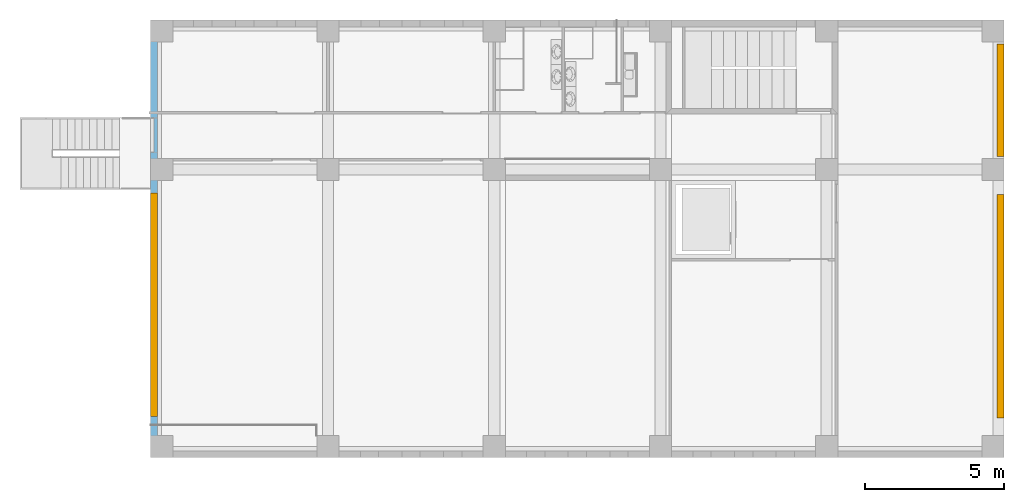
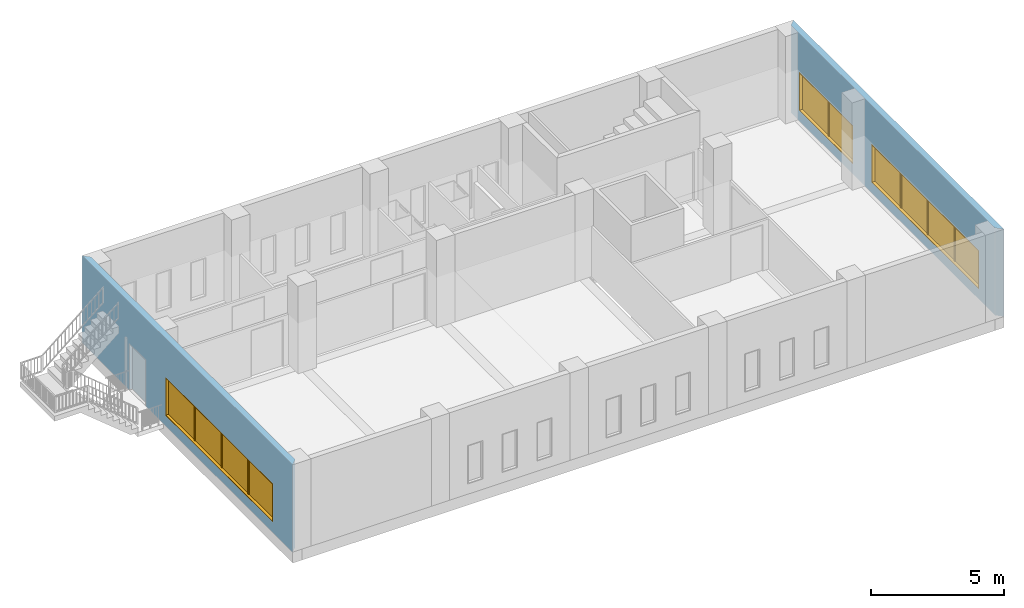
# One storey, part 5 of 14: 3 windows, 4 openings, plus 2 elements that do not belong to this part.
"""IFC2X3 building model written with IfcOpenShell, lengths in millimetres."""

from ifc_helpers import new_model, entity, si_unit, converted_unit, direction, frame, origin_with_axes, origin_2d_with_axis, place, context, project, spatial, polyline, rectangle, outline, extrude, open_shell, faceted_brep, surface_model, material, layer, layer_set, layer_usage, type_object, element, fill, save


model = new_model("IFC2X3")

# Units and contexts
model_context = context("Model", 3, precision=1e-05, world=origin_with_axes(), true_north=direction((0.0, 1.0)))
ifc_project = project(units=[si_unit("LENGTHUNIT", "METRE", prefix="MILLI"), si_unit("AREAUNIT", "SQUARE_METRE"), si_unit("VOLUMEUNIT", "CUBIC_METRE"), converted_unit("PLANEANGLEUNIT", "DEGREE", entity("IfcPlaneAngleMeasure", 0.017453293), si_unit("PLANEANGLEUNIT", "RADIAN"), dimensions=[0, 0, 0, 0, 0, 0, 0]), si_unit("SOLIDANGLEUNIT", "STERADIAN"), si_unit("MASSUNIT", "GRAM"), si_unit("TIMEUNIT", "SECOND"), si_unit("THERMODYNAMICTEMPERATUREUNIT", "DEGREE_CELSIUS"), si_unit("LUMINOUSINTENSITYUNIT", "LUMEN")], contexts=[model_context])

# Site, building, storey
site_placement = place(None, origin_with_axes())
site = spatial("IfcSite", under=ifc_project, at=site_placement, Name="\x83T\x83C\x83g", CompositionType="ELEMENT")
building_placement = place(site_placement, origin_with_axes())
building = spatial("IfcBuilding", under=site, at=building_placement, Name="Daitec-Sample 201208", CompositionType="ELEMENT")
storey_placement = place(building_placement, frame((0.0, 0.0, 4000.0), z_axis=(0.0, 0.0, 1.0), x_axis=(1.0, 0.0, 0.0)))
storey = spatial("IfcBuildingStorey", under=building, at=storey_placement, Name="2F", CompositionType="ELEMENT", Elevation=4000.0)

# Wall, openings, window
ifc_material_1 = material(Name="\x83R\x83\x93\x83N\x83\x8a\x81[\x83g-\x8d\\\x91¢2")
ifc_layer = layer(ifc_material_1, 250.0, ventilated="UNKNOWN")
ifc_layer_set = layer_set([ifc_layer], Name="\x83R\x83\x93\x83N\x83\x8a\x81[\x83g-\x8d\\\x91¢2 250")
ifc_layer_usage_1 = layer_usage(ifc_layer_set, "AXIS2", "POSITIVE", 0.0)
wall_type = type_object("IfcWallType", Name="\x83R\x83\x93\x83N\x83\x8a\x81[\x83g-\x8d\\\x91¢2 250", PredefinedType="NOTDEFINED")
wall_1_placement = place(storey_placement, frame((6100.0, 23800.0, 0.0), z_axis=(0.0, 0.0, 1.0), x_axis=(0.0, -1.0, 0.0)))
wall_1 = element("IfcWallStandardCase", 1, at=wall_1_placement, inside=storey, type_object=wall_type, material=ifc_layer_usage_1, Name="W9", context=model_context, shape_type="SweptSolid", body=[
    extrude(outline(polyline([(0.0, 0.0), (15800.0, 0.0), (15550.0, 250.0), (250.0, 250.0), (0.0, 0.0)])), origin_with_axes(), (0.0, 0.0, 1.0), 4000.0),
])
opening_1_placement = place(wall_1_placement, frame((10282.79, 0.0, 500.0), z_axis=(0.0, 0.0, 1.0), x_axis=(1.0, 0.0, 0.0)))
opening_1 = element("IfcOpeningElement", 2, at=opening_1_placement, cuts=wall_1, context=model_context, shape_type="SweptSolid", body=[
    extrude(rectangle(XDim=8000.0, YDim=1700.0, at=origin_2d_with_axis()), frame((0.0, 251.0, 850.0), z_axis=(0.0, -1.0, 0.0), x_axis=(1.0, 0.0, 0.0)), (0.0, 0.0, 1.0), 252.0),
    extrude(rectangle(XDim=8000.0, YDim=1700.0, at=origin_2d_with_axis()), frame((0.0, 249.0, 850.0), z_axis=(0.0, 1.0, 0.0), x_axis=(1.0, 0.0, 0.0)), (0.0, 0.0, 1.0), 252.0),
    extrude(rectangle(XDim=8060.0, YDim=1760.0, at=origin_2d_with_axis()), frame((0.0, 124.0, 850.0), z_axis=(0.0, 1.0, 0.0), x_axis=(1.0, 0.0, 0.0)), (0.0, 0.0, 1.0), 252.0),
])
opening_2_placement = place(wall_1_placement, frame((4155.9596, 0.0, 0.0), z_axis=(0.0, 0.0, 1.0), x_axis=(1.0, 0.0, 0.0)))
element("IfcOpeningElement", 3, at=opening_2_placement, cuts=wall_1, context=model_context, shape_type="SweptSolid", body=[
    extrude(rectangle(XDim=1260.0, YDim=2130.0, at=origin_2d_with_axis()), frame((0.0, 126.0, 1065.0), z_axis=(0.0, -1.0, 0.0), x_axis=(1.0, 0.0, 0.0)), (0.0, 0.0, 1.0), 252.0),
])
ifc_material_2 = material(Name="\x94w\x8ci")
window_style = type_object("IfcWindowStyle", Name="\x98A\x91\x95\x91\x8b\x82P_JX5", ConstructionType="NOTDEFINED", OperationType="NOTDEFINED", ParameterTakesPrecedence=False, Sizeable=False)
window_1_placement = place(opening_1_placement, frame((4000.0, 0.0, 0.0), z_axis=(0.0, 0.0, 1.0), x_axis=(-1.0, 0.0, 0.0)))
window_1 = element("IfcWindow", 4, at=window_1_placement, inside=storey, type_object=window_style, material=ifc_material_2, Name="AW6", OverallHeight=1700.0, OverallWidth=8000.0, context=model_context, shape_type="SurfaceModel", body=[
    surface_model("IfcShellBasedSurfaceModel", [(8000.0, -125.0, 0.0), (8000.0, -125.0, 1700.0), (6052.5, -125.0, 1700.0), (6052.5, -125.0, 0.0)], [open_shell([[[0, 1, 2, 3]]])]),
    surface_model("IfcShellBasedSurfaceModel", [(5982.5, -125.0, 0.0), (5982.5, -125.0, 1700.0), (4035.0, -125.0, 1700.0), (4035.0, -125.0, 0.0)], [open_shell([[[0, 1, 2, 3]]])]),
    surface_model("IfcShellBasedSurfaceModel", [(3965.0, -125.0, 0.0), (3965.0, -125.0, 1700.0), (2017.5, -125.0, 1700.0), (2017.5, -125.0, 0.0)], [open_shell([[[0, 1, 2, 3]]])]),
    surface_model("IfcShellBasedSurfaceModel", [(1947.5, -125.0, 0.0), (1947.5, -125.0, 1700.0), (0.0, -125.0, 1700.0), (0.0, -125.0, 0.0)], [open_shell([[[0, 1, 2, 3]]])]),
    faceted_brep([(6052.5, -90.0, 0.0), (5982.5, -90.0, 0.0), (5982.5, -90.0, 1700.0), (6052.5, -90.0, 1700.0), (6052.5, -160.0, 0.0), (5982.5, -160.0, 0.0), (5982.5, -160.0, 1700.0), (6052.5, -160.0, 1700.0)], [[[0, 1, 2, 3]], [[0, 4, 5, 1]], [[1, 5, 6, 2]], [[3, 2, 6, 7]], [[4, 0, 3, 7]], [[5, 4, 7, 6]]]),
    faceted_brep([(4035.0, -90.0, 0.0), (3965.0, -90.0, 0.0), (3965.0, -90.0, 1700.0), (4035.0, -90.0, 1700.0), (4035.0, -160.0, 0.0), (3965.0, -160.0, 0.0), (3965.0, -160.0, 1700.0), (4035.0, -160.0, 1700.0)], [[[0, 1, 2, 3]], [[0, 4, 5, 1]], [[1, 5, 6, 2]], [[3, 2, 6, 7]], [[4, 0, 3, 7]], [[5, 4, 7, 6]]]),
    faceted_brep([(2017.5, -90.0, 0.0), (1947.5, -90.0, 0.0), (1947.5, -90.0, 1700.0), (2017.5, -90.0, 1700.0), (2017.5, -160.0, 0.0), (1947.5, -160.0, 0.0), (1947.5, -160.0, 1700.0), (2017.5, -160.0, 1700.0)], [[[0, 1, 2, 3]], [[0, 4, 5, 1]], [[1, 5, 6, 2]], [[3, 2, 6, 7]], [[4, 0, 3, 7]], [[5, 4, 7, 6]]]),
    surface_model("IfcShellBasedSurfaceModel", [(8030.0, -250.0, -30.0), (8030.0, -250.0, 1730.0), (-30.0, -250.0, 1730.0), (-30.0, -250.0, -30.0), (8000.0, -250.0, 0.0), (0.0, -250.0, 0.0), (0.0, -250.0, 1700.0), (8000.0, -250.0, 1700.0)], [open_shell([[[0, 1, 2, 3], [4, 5, 6, 7]]])]),
    surface_model("IfcShellBasedSurfaceModel", [(8030.0, 0.0, -30.0), (8030.0, 0.0, 1730.0), (-30.0, 0.0, 1730.0), (-30.0, 0.0, -30.0), (8000.0, 0.0, 0.0), (0.0, 0.0, 0.0), (0.0, 0.0, 1700.0), (8000.0, 0.0, 1700.0)], [open_shell([[[0, 1, 2, 3], [4, 5, 6, 7]]])]),
    surface_model("IfcShellBasedSurfaceModel", [(8030.0, -250.0, -30.0), (-30.0, -250.0, -30.0), (-30.0, 0.0, -30.0), (8030.0, 0.0, -30.0), (-30.0, -250.0, 1730.0), (-30.0, 0.0, 1730.0), (8030.0, -250.0, 1730.0), (8030.0, 0.0, 1730.0)], [open_shell([[[0, 1, 2, 3]], [[1, 4, 5, 2]], [[6, 0, 3, 7]], [[4, 6, 7, 5]]])]),
    surface_model("IfcShellBasedSurfaceModel", [(8000.0, -250.0, 0.0), (0.0, -250.0, 0.0), (0.0, 0.0, 0.0), (8000.0, 0.0, 0.0), (0.0, -250.0, 1700.0), (0.0, 0.0, 1700.0), (8000.0, -250.0, 1700.0), (8000.0, 0.0, 1700.0)], [open_shell([[[0, 1, 2, 3]], [[1, 4, 5, 2]], [[6, 0, 3, 7]], [[4, 6, 7, 5]]])]),
])
fill(opening_1, window_1)

# Wall, openings, windows
ifc_layer_usage_2 = layer_usage(ifc_layer_set, "AXIS2", "POSITIVE", 0.0)
wall_2_placement = place(storey_placement, frame((36900.0, 8000.0, 0.0), z_axis=(0.0, 0.0, 1.0), x_axis=(0.0, 1.0, 0.0)))
wall_2 = element("IfcWallStandardCase", 5, at=wall_2_placement, inside=storey, type_object=wall_type, material=ifc_layer_usage_2, Name="W7", context=model_context, shape_type="SweptSolid", body=[
    extrude(outline(polyline([(0.0, 0.0), (15800.0, 0.0), (15550.0, 250.0), (250.0, 250.0), (0.0, 0.0)])), origin_with_axes(), (0.0, 0.0, 1.0), 4000.0),
])
opening_3_placement = place(wall_2_placement, frame((5462.7727, 0.0, 500.0), z_axis=(0.0, 0.0, 1.0), x_axis=(1.0, 0.0, 0.0)))
opening_3 = element("IfcOpeningElement", 6, at=opening_3_placement, cuts=wall_2, context=model_context, shape_type="SweptSolid", body=[
    extrude(rectangle(XDim=8000.0, YDim=1700.0, at=origin_2d_with_axis()), frame((0.0, -1.0, 850.0), z_axis=(0.0, 1.0, 0.0), x_axis=(1.0, 0.0, 0.0)), (0.0, 0.0, 1.0), 252.0),
    extrude(rectangle(XDim=8000.0, YDim=1700.0, at=origin_2d_with_axis()), frame((0.0, 1.0, 850.0), z_axis=(0.0, -1.0, 0.0), x_axis=(1.0, 0.0, 0.0)), (0.0, 0.0, 1.0), 252.0),
    extrude(rectangle(XDim=8060.0, YDim=1760.0, at=origin_2d_with_axis()), frame((0.0, 126.0, 850.0), z_axis=(0.0, -1.0, 0.0), x_axis=(1.0, 0.0, 0.0)), (0.0, 0.0, 1.0), 252.0),
])
opening_4_placement = place(wall_2_placement, frame((12904.157, 0.0, 500.0), z_axis=(0.0, 0.0, 1.0), x_axis=(1.0, 0.0, 0.0)))
opening_4 = element("IfcOpeningElement", 7, at=opening_4_placement, cuts=wall_2, context=model_context, shape_type="SweptSolid", body=[
    extrude(rectangle(XDim=4000.0, YDim=1700.0, at=origin_2d_with_axis()), frame((0.0, 191.0, 850.0), z_axis=(0.0, -1.0, 0.0), x_axis=(1.0, 0.0, 0.0)), (0.0, 0.0, 1.0), 252.0),
    extrude(rectangle(XDim=4000.0, YDim=1700.0, at=origin_2d_with_axis()), frame((0.0, 189.0, 850.0), z_axis=(0.0, 1.0, 0.0), x_axis=(1.0, 0.0, 0.0)), (0.0, 0.0, 1.0), 252.0),
    extrude(rectangle(XDim=4060.0, YDim=1760.0, at=origin_2d_with_axis()), frame((0.0, 316.0, 850.0), z_axis=(0.0, -1.0, 0.0), x_axis=(1.0, 0.0, 0.0)), (0.0, 0.0, 1.0), 252.0),
])
window_2_placement = place(opening_3_placement, frame((-4000.0, 0.0, 0.0), z_axis=(0.0, 0.0, 1.0), x_axis=(1.0, 0.0, 0.0)))
window_2 = element("IfcWindow", 8, at=window_2_placement, inside=storey, type_object=window_style, material=ifc_material_2, Name="AW7", OverallHeight=1700.0, OverallWidth=8000.0, context=model_context, shape_type="SurfaceModel", body=[
    surface_model("IfcShellBasedSurfaceModel", [(8000.0, 125.0, 0.0), (8000.0, 125.0, 1700.0), (6052.5, 125.0, 1700.0), (6052.5, 125.0, 0.0)], [open_shell([[[0, 1, 2, 3]]])]),
    surface_model("IfcShellBasedSurfaceModel", [(5982.5, 125.0, 0.0), (5982.5, 125.0, 1700.0), (4035.0, 125.0, 1700.0), (4035.0, 125.0, 0.0)], [open_shell([[[0, 1, 2, 3]]])]),
    surface_model("IfcShellBasedSurfaceModel", [(3965.0, 125.0, 0.0), (3965.0, 125.0, 1700.0), (2017.5, 125.0, 1700.0), (2017.5, 125.0, 0.0)], [open_shell([[[0, 1, 2, 3]]])]),
    surface_model("IfcShellBasedSurfaceModel", [(1947.5, 125.0, 0.0), (1947.5, 125.0, 1700.0), (0.0, 125.0, 1700.0), (0.0, 125.0, 0.0)], [open_shell([[[0, 1, 2, 3]]])]),
    faceted_brep([(6052.5, 160.0, 0.0), (5982.5, 160.0, 0.0), (5982.5, 160.0, 1700.0), (6052.5, 160.0, 1700.0), (6052.5, 90.0, 0.0), (5982.5, 90.0, 0.0), (5982.5, 90.0, 1700.0), (6052.5, 90.0, 1700.0)], [[[0, 1, 2, 3]], [[0, 4, 5, 1]], [[1, 5, 6, 2]], [[3, 2, 6, 7]], [[4, 0, 3, 7]], [[5, 4, 7, 6]]]),
    faceted_brep([(4035.0, 160.0, 0.0), (3965.0, 160.0, 0.0), (3965.0, 160.0, 1700.0), (4035.0, 160.0, 1700.0), (4035.0, 90.0, 0.0), (3965.0, 90.0, 0.0), (3965.0, 90.0, 1700.0), (4035.0, 90.0, 1700.0)], [[[0, 1, 2, 3]], [[0, 4, 5, 1]], [[1, 5, 6, 2]], [[3, 2, 6, 7]], [[4, 0, 3, 7]], [[5, 4, 7, 6]]]),
    faceted_brep([(2017.5, 160.0, 0.0), (1947.5, 160.0, 0.0), (1947.5, 160.0, 1700.0), (2017.5, 160.0, 1700.0), (2017.5, 90.0, 0.0), (1947.5, 90.0, 0.0), (1947.5, 90.0, 1700.0), (2017.5, 90.0, 1700.0)], [[[0, 1, 2, 3]], [[0, 4, 5, 1]], [[1, 5, 6, 2]], [[3, 2, 6, 7]], [[4, 0, 3, 7]], [[5, 4, 7, 6]]]),
    surface_model("IfcShellBasedSurfaceModel", [(8030.0, 0.0, -30.0), (8030.0, 0.0, 1730.0), (-30.0, 0.0, 1730.0), (-30.0, 0.0, -30.0), (8000.0, 0.0, 0.0), (0.0, 0.0, 0.0), (0.0, 0.0, 1700.0), (8000.0, 0.0, 1700.0)], [open_shell([[[0, 1, 2, 3], [4, 5, 6, 7]]])]),
    surface_model("IfcShellBasedSurfaceModel", [(8030.0, 250.0, -30.0), (8030.0, 250.0, 1730.0), (-30.0, 250.0, 1730.0), (-30.0, 250.0, -30.0), (8000.0, 250.0, 0.0), (0.0, 250.0, 0.0), (0.0, 250.0, 1700.0), (8000.0, 250.0, 1700.0)], [open_shell([[[0, 1, 2, 3], [4, 5, 6, 7]]])]),
    surface_model("IfcShellBasedSurfaceModel", [(8030.0, 0.0, -30.0), (-30.0, 0.0, -30.0), (-30.0, 250.0, -30.0), (8030.0, 250.0, -30.0), (-30.0, 0.0, 1730.0), (-30.0, 250.0, 1730.0), (8030.0, 0.0, 1730.0), (8030.0, 250.0, 1730.0)], [open_shell([[[0, 1, 2, 3]], [[1, 4, 5, 2]], [[6, 0, 3, 7]], [[4, 6, 7, 5]]])]),
    surface_model("IfcShellBasedSurfaceModel", [(8000.0, 0.0, 0.0), (0.0, 0.0, 0.0), (0.0, 250.0, 0.0), (8000.0, 250.0, 0.0), (0.0, 0.0, 1700.0), (0.0, 250.0, 1700.0), (8000.0, 0.0, 1700.0), (8000.0, 250.0, 1700.0)], [open_shell([[[0, 1, 2, 3]], [[1, 4, 5, 2]], [[6, 0, 3, 7]], [[4, 6, 7, 5]]])]),
])
fill(opening_3, window_2)
window_3_placement = place(opening_4_placement, frame((2000.0, 0.0, 0.0), z_axis=(0.0, 0.0, 1.0), x_axis=(-1.0, 0.0, 0.0)))
window_3 = element("IfcWindow", 9, at=window_3_placement, inside=storey, type_object=window_style, material=ifc_material_2, Name="AW5", OverallHeight=1700.0, OverallWidth=4000.0, context=model_context, shape_type="SurfaceModel", body=[
    surface_model("IfcShellBasedSurfaceModel", [(1965.0, -125.0, 0.0), (1965.0, -125.0, 1700.0), (0.0, -125.0, 1700.0), (0.0, -125.0, 0.0)], [open_shell([[[0, 1, 2, 3]]])]),
    surface_model("IfcShellBasedSurfaceModel", [(4000.0, -125.0, 0.0), (4000.0, -125.0, 1700.0), (2035.0, -125.0, 1700.0), (2035.0, -125.0, 0.0)], [open_shell([[[0, 1, 2, 3]]])]),
    faceted_brep([(1965.0, -90.0, 0.0), (1965.0, -90.0, 1700.0), (2035.0, -90.0, 1700.0), (2035.0, -90.0, 0.0), (1965.0, -160.0, 0.0), (1965.0, -160.0, 1700.0), (2035.0, -160.0, 1700.0), (2035.0, -160.0, 0.0)], [[[0, 1, 2, 3]], [[4, 5, 1, 0]], [[1, 5, 6, 2]], [[3, 2, 6, 7]], [[0, 3, 7, 4]], [[7, 6, 5, 4]]]),
    surface_model("IfcShellBasedSurfaceModel", [(-30.0, -250.0, -30.0), (4030.0, -250.0, -30.0), (4030.0, -250.0, 1730.0), (-30.0, -250.0, 1730.0), (0.0, -250.0, 0.0), (0.0, -250.0, 1700.0), (4000.0, -250.0, 1700.0), (4000.0, -250.0, 0.0)], [open_shell([[[0, 1, 2, 3], [4, 5, 6, 7]]])]),
    surface_model("IfcShellBasedSurfaceModel", [(-30.0, 0.0, -30.0), (4030.0, 0.0, -30.0), (4030.0, 0.0, 1730.0), (-30.0, 0.0, 1730.0), (0.0, 0.0, 0.0), (0.0, 0.0, 1700.0), (4000.0, 0.0, 1700.0), (4000.0, 0.0, 0.0)], [open_shell([[[0, 1, 2, 3], [4, 5, 6, 7]]])]),
    surface_model("IfcShellBasedSurfaceModel", [(-30.0, -250.0, -30.0), (-30.0, 0.0, -30.0), (4030.0, 0.0, -30.0), (4030.0, -250.0, -30.0), (-30.0, -250.0, 1730.0), (-30.0, 0.0, 1730.0), (4030.0, 0.0, 1730.0), (4030.0, -250.0, 1730.0)], [open_shell([[[0, 1, 2, 3]], [[4, 5, 1, 0]], [[3, 2, 6, 7]], [[7, 6, 5, 4]]])]),
    surface_model("IfcShellBasedSurfaceModel", [(0.0, -250.0, 0.0), (0.0, 0.0, 0.0), (4000.0, 0.0, 0.0), (4000.0, -250.0, 0.0), (0.0, -250.0, 1700.0), (0.0, 0.0, 1700.0), (4000.0, 0.0, 1700.0), (4000.0, -250.0, 1700.0)], [open_shell([[[0, 1, 2, 3]], [[4, 5, 1, 0]], [[3, 2, 6, 7]], [[7, 6, 5, 4]]])]),
])
fill(opening_4, window_3)

save(model, "model.ifc")
